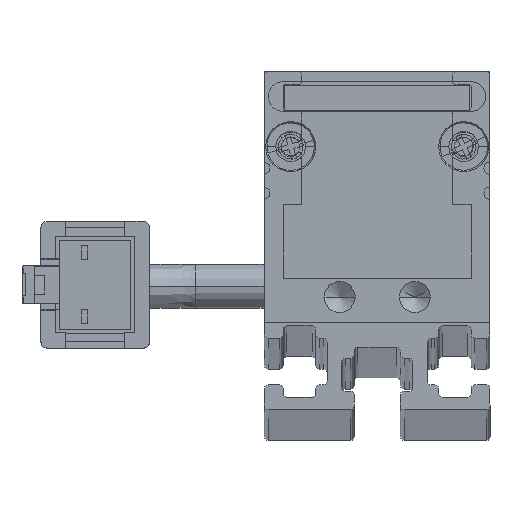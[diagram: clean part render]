
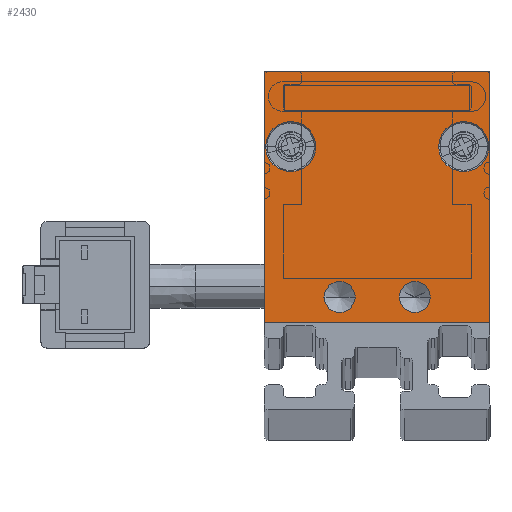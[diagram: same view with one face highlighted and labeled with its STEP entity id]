
A CAD part, top view. The second image highlights one B-rep face of the part: STEP entity #2430.
In plain terms, the highlighted planar face has unit normal (0, 0, 1) as drawn and (0, 0, -1) by its records, which use the part's own axes.
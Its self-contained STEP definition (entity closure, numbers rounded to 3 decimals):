
#5 = LINE ( 'NONE', #2088, #291 ) ;
#78 = AXIS2_PLACEMENT_3D ( 'NONE', #10881, #2242, #4129 ) ;
#119 = AXIS2_PLACEMENT_3D ( 'NONE', #5902, #1122, #4008 ) ;
#291 = VECTOR ( 'NONE', #3832, 1000. ) ;
#322 = VERTEX_POINT ( 'NONE', #9100 ) ;
#642 = CIRCLE ( 'NONE', #4270, 1.25 ) ;
#771 = EDGE_CURVE ( 'NONE', #11873, #8052, #642, .T. ) ;
#988 = CARTESIAN_POINT ( 'NONE',  ( 3., 2., -2.5 ) ) ;
#1066 = AXIS2_PLACEMENT_3D ( 'NONE', #3392, #9082, #2708 ) ;
#1116 = CARTESIAN_POINT ( 'NONE',  ( -3., 2., -2.5 ) ) ;
#1122 = DIRECTION ( 'NONE',  ( 0., 0., -1. ) ) ;
#1401 = CARTESIAN_POINT ( 'NONE',  ( 6.9, 14., -2.5 ) ) ;
#1411 = AXIS2_PLACEMENT_3D ( 'NONE', #6963, #4051, #10820 ) ;
#1455 = ORIENTED_EDGE ( 'NONE', *, *, #2016, .F. ) ;
#1525 = CARTESIAN_POINT ( 'NONE',  ( 1.75, 2., -2.5 ) ) ;
#1561 = FACE_BOUND ( 'NONE', #3824, .T. ) ;
#1691 = DIRECTION ( 'NONE',  ( 1., 0., 0. ) ) ;
#1895 = CARTESIAN_POINT ( 'NONE',  ( -4.9, 14., -2.5 ) ) ;
#1896 = DIRECTION ( 'NONE',  ( -1., 0., 0. ) ) ;
#2016 = EDGE_CURVE ( 'NONE', #5406, #7882, #5, .T. ) ;
#2088 = CARTESIAN_POINT ( 'NONE',  ( -9., 0., -2.5 ) ) ;
#2175 = VERTEX_POINT ( 'NONE', #1895 ) ;
#2242 = DIRECTION ( 'NONE',  ( 0., 0., -1. ) ) ;
#2292 = VECTOR ( 'NONE', #4435, 1000. ) ;
#2430 = ADVANCED_FACE ( 'NONE', ( #6469, #3442, #9445, #1561, #11413 ), #10331, .F. ) ;
#2513 = CARTESIAN_POINT ( 'NONE',  ( -6.9, 14., -2.5 ) ) ;
#2708 = DIRECTION ( 'NONE',  ( -1., 0., 0. ) ) ;
#2865 = EDGE_CURVE ( 'NONE', #12093, #322, #7758, .T. ) ;
#3187 = DIRECTION ( 'NONE',  ( -1., 0., 0. ) ) ;
#3216 = EDGE_CURVE ( 'NONE', #9037, #5406, #7465, .T. ) ;
#3280 = CIRCLE ( 'NONE', #78, 1.25 ) ;
#3325 = VECTOR ( 'NONE', #1896, 1000. ) ;
#3392 = CARTESIAN_POINT ( 'NONE',  ( -6.9, 14., -2.5 ) ) ;
#3442 = FACE_BOUND ( 'NONE', #12476, .T. ) ;
#3549 = EDGE_CURVE ( 'NONE', #8426, #9037, #7757, .T. ) ;
#3824 = EDGE_LOOP ( 'NONE', ( #9011, #6838 ) ) ;
#3832 = DIRECTION ( 'NONE',  ( 1., 0., 0. ) ) ;
#3925 = EDGE_LOOP ( 'NONE', ( #6052, #8718 ) ) ;
#3950 = DIRECTION ( 'NONE',  ( 0., 0., -1. ) ) ;
#4008 = DIRECTION ( 'NONE',  ( -1., 0., 0. ) ) ;
#4051 = DIRECTION ( 'NONE',  ( 0., 0., -1. ) ) ;
#4129 = DIRECTION ( 'NONE',  ( -1., 0., 0. ) ) ;
#4157 = CARTESIAN_POINT ( 'NONE',  ( 4.25, 2., -2.5 ) ) ;
#4270 = AXIS2_PLACEMENT_3D ( 'NONE', #988, #7664, #11529 ) ;
#4435 = DIRECTION ( 'NONE',  ( 0., 1., 0. ) ) ;
#4536 = VERTEX_POINT ( 'NONE', #8482 ) ;
#4539 = VECTOR ( 'NONE', #11324, 1000. ) ;
#4641 = CARTESIAN_POINT ( 'NONE',  ( 0., 0., -2.5 ) ) ;
#4735 = EDGE_LOOP ( 'NONE', ( #6007, #9024, #5581, #1455 ) ) ;
#4755 = EDGE_CURVE ( 'NONE', #8052, #11873, #6847, .T. ) ;
#5090 = AXIS2_PLACEMENT_3D ( 'NONE', #1116, #3950, #3187 ) ;
#5239 = DIRECTION ( 'NONE',  ( 0., 0., -1. ) ) ;
#5331 = CIRCLE ( 'NONE', #11002, 2. ) ;
#5406 = VERTEX_POINT ( 'NONE', #6462 ) ;
#5537 = ORIENTED_EDGE ( 'NONE', *, *, #6238, .F. ) ;
#5581 = ORIENTED_EDGE ( 'NONE', *, *, #8549, .F. ) ;
#5724 = AXIS2_PLACEMENT_3D ( 'NONE', #4641, #8485, #1691 ) ;
#5902 = CARTESIAN_POINT ( 'NONE',  ( 6.9, 14., -2.5 ) ) ;
#5918 = VERTEX_POINT ( 'NONE', #6641 ) ;
#6007 = ORIENTED_EDGE ( 'NONE', *, *, #3216, .F. ) ;
#6052 = ORIENTED_EDGE ( 'NONE', *, *, #771, .F. ) ;
#6222 = ORIENTED_EDGE ( 'NONE', *, *, #2865, .F. ) ;
#6238 = EDGE_CURVE ( 'NONE', #322, #12093, #5331, .T. ) ;
#6462 = CARTESIAN_POINT ( 'NONE',  ( -9., 0., -2.5 ) ) ;
#6469 = FACE_BOUND ( 'NONE', #8160, .T. ) ;
#6474 = DIRECTION ( 'NONE',  ( -1., 0., 0. ) ) ;
#6641 = CARTESIAN_POINT ( 'NONE',  ( -1.75, 2., -2.5 ) ) ;
#6699 = CIRCLE ( 'NONE', #6898, 2. ) ;
#6838 = ORIENTED_EDGE ( 'NONE', *, *, #10164, .F. ) ;
#6847 = CIRCLE ( 'NONE', #1411, 1.25 ) ;
#6898 = AXIS2_PLACEMENT_3D ( 'NONE', #2513, #8307, #6474 ) ;
#6963 = CARTESIAN_POINT ( 'NONE',  ( 3., 2., -2.5 ) ) ;
#7085 = CARTESIAN_POINT ( 'NONE',  ( -9., 20., -2.5 ) ) ;
#7465 = LINE ( 'NONE', #9433, #4539 ) ;
#7599 = ORIENTED_EDGE ( 'NONE', *, *, #12335, .F. ) ;
#7664 = DIRECTION ( 'NONE',  ( 0., 0., -1. ) ) ;
#7757 = LINE ( 'NONE', #9594, #3325 ) ;
#7758 = CIRCLE ( 'NONE', #119, 2. ) ;
#7810 = EDGE_CURVE ( 'NONE', #10089, #2175, #9126, .T. ) ;
#7882 = VERTEX_POINT ( 'NONE', #11356 ) ;
#8052 = VERTEX_POINT ( 'NONE', #4157 ) ;
#8160 = EDGE_LOOP ( 'NONE', ( #5537, #6222 ) ) ;
#8307 = DIRECTION ( 'NONE',  ( 0., 0., -1. ) ) ;
#8325 = CARTESIAN_POINT ( 'NONE',  ( 8.9, 14., -2.5 ) ) ;
#8369 = EDGE_CURVE ( 'NONE', #4536, #5918, #11354, .T. ) ;
#8426 = VERTEX_POINT ( 'NONE', #11786 ) ;
#8482 = CARTESIAN_POINT ( 'NONE',  ( -4.25, 2., -2.5 ) ) ;
#8485 = DIRECTION ( 'NONE',  ( 0., 0., 1. ) ) ;
#8549 = EDGE_CURVE ( 'NONE', #7882, #8426, #11136, .T. ) ;
#8718 = ORIENTED_EDGE ( 'NONE', *, *, #4755, .F. ) ;
#9011 = ORIENTED_EDGE ( 'NONE', *, *, #8369, .F. ) ;
#9024 = ORIENTED_EDGE ( 'NONE', *, *, #3549, .F. ) ;
#9037 = VERTEX_POINT ( 'NONE', #7085 ) ;
#9082 = DIRECTION ( 'NONE',  ( 0., 0., -1. ) ) ;
#9100 = CARTESIAN_POINT ( 'NONE',  ( 4.9, 14., -2.5 ) ) ;
#9101 = DIRECTION ( 'NONE',  ( -1., 0., 0. ) ) ;
#9126 = CIRCLE ( 'NONE', #1066, 2. ) ;
#9175 = CARTESIAN_POINT ( 'NONE',  ( -8.9, 14., -2.5 ) ) ;
#9433 = CARTESIAN_POINT ( 'NONE',  ( -9., 20., -2.5 ) ) ;
#9445 = FACE_BOUND ( 'NONE', #3925, .T. ) ;
#9594 = CARTESIAN_POINT ( 'NONE',  ( -9., 20., -2.5 ) ) ;
#9951 = CARTESIAN_POINT ( 'NONE',  ( 9., 20., -2.5 ) ) ;
#10089 = VERTEX_POINT ( 'NONE', #9175 ) ;
#10164 = EDGE_CURVE ( 'NONE', #5918, #4536, #3280, .T. ) ;
#10331 = PLANE ( 'NONE',  #5724 ) ;
#10491 = ORIENTED_EDGE ( 'NONE', *, *, #7810, .F. ) ;
#10820 = DIRECTION ( 'NONE',  ( -1., 0., 0. ) ) ;
#10881 = CARTESIAN_POINT ( 'NONE',  ( -3., 2., -2.5 ) ) ;
#11002 = AXIS2_PLACEMENT_3D ( 'NONE', #1401, #5239, #9101 ) ;
#11136 = LINE ( 'NONE', #9951, #2292 ) ;
#11324 = DIRECTION ( 'NONE',  ( 0., -1., 0. ) ) ;
#11354 = CIRCLE ( 'NONE', #5090, 1.25 ) ;
#11356 = CARTESIAN_POINT ( 'NONE',  ( 9., 0., -2.5 ) ) ;
#11413 = FACE_OUTER_BOUND ( 'NONE', #4735, .T. ) ;
#11529 = DIRECTION ( 'NONE',  ( -1., 0., 0. ) ) ;
#11786 = CARTESIAN_POINT ( 'NONE',  ( 9., 20., -2.5 ) ) ;
#11873 = VERTEX_POINT ( 'NONE', #1525 ) ;
#12093 = VERTEX_POINT ( 'NONE', #8325 ) ;
#12335 = EDGE_CURVE ( 'NONE', #2175, #10089, #6699, .T. ) ;
#12476 = EDGE_LOOP ( 'NONE', ( #10491, #7599 ) ) ;
